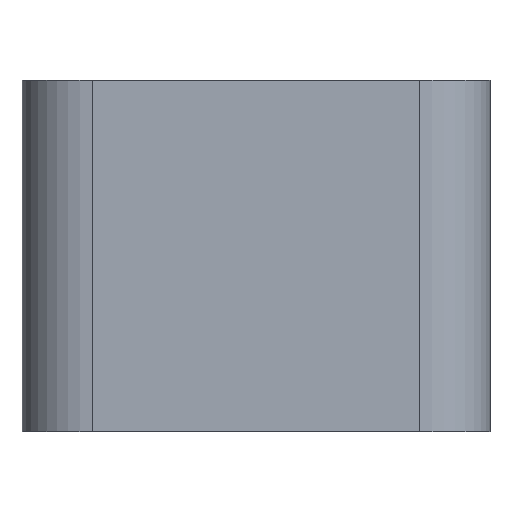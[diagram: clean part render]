
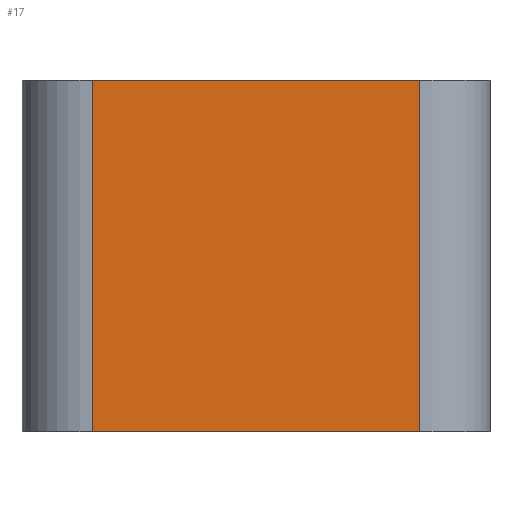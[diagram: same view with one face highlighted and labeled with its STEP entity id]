
A CAD part, left-side view. The second image highlights one B-rep face of the part: STEP entity #17.
In plain terms, the highlighted planar face has unit normal (-1, 0, 0).
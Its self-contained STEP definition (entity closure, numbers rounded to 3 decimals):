
#17 = ADVANCED_FACE('',(#18),#32,.T.);
#18 = FACE_BOUND('',#19,.T.);
#19 = EDGE_LOOP('',(#20,#55,#83,#111));
#20 = ORIENTED_EDGE('',*,*,#21,.T.);
#21 = EDGE_CURVE('',#22,#24,#26,.T.);
#22 = VERTEX_POINT('',#23);
#23 = CARTESIAN_POINT('',(-33.5,-27.1,-13.));
#24 = VERTEX_POINT('',#25);
#25 = CARTESIAN_POINT('',(-33.5,-27.1,-8.5));
#26 = SURFACE_CURVE('',#27,(#31,#43),.PCURVE_S1.);
#27 = LINE('',#28,#29);
#28 = CARTESIAN_POINT('',(-33.5,-27.1,-13.));
#29 = VECTOR('',#30,1.);
#30 = DIRECTION('',(0.,0.,1.));
#31 = PCURVE('',#32,#37);
#32 = PLANE('',#33);
#33 = AXIS2_PLACEMENT_3D('',#34,#35,#36);
#34 = CARTESIAN_POINT('',(-33.5,-27.1,-13.));
#35 = DIRECTION('',(-1.,0.,0.));
#36 = DIRECTION('',(0.,1.,0.));
#37 = DEFINITIONAL_REPRESENTATION('',(#38),#42);
#38 = LINE('',#39,#40);
#39 = CARTESIAN_POINT('',(0.,0.));
#40 = VECTOR('',#41,1.);
#41 = DIRECTION('',(0.,-1.));
#42 = ( GEOMETRIC_REPRESENTATION_CONTEXT(2) 
PARAMETRIC_REPRESENTATION_CONTEXT() REPRESENTATION_CONTEXT('2D SPACE',''
  ) );
#43 = PCURVE('',#44,#49);
#44 = CYLINDRICAL_SURFACE('',#45,0.9);
#45 = AXIS2_PLACEMENT_3D('',#46,#47,#48);
#46 = CARTESIAN_POINT('',(-32.6,-27.1,-13.));
#47 = DIRECTION('',(0.,0.,-1.));
#48 = DIRECTION('',(-1.,0.,0.));
#49 = DEFINITIONAL_REPRESENTATION('',(#50),#54);
#50 = LINE('',#51,#52);
#51 = CARTESIAN_POINT('',(6.283,0.));
#52 = VECTOR('',#53,1.);
#53 = DIRECTION('',(0.,-1.));
#54 = ( GEOMETRIC_REPRESENTATION_CONTEXT(2) 
PARAMETRIC_REPRESENTATION_CONTEXT() REPRESENTATION_CONTEXT('2D SPACE',''
  ) );
#55 = ORIENTED_EDGE('',*,*,#56,.T.);
#56 = EDGE_CURVE('',#24,#57,#59,.T.);
#57 = VERTEX_POINT('',#58);
#58 = CARTESIAN_POINT('',(-33.5,-22.9,-8.5));
#59 = SURFACE_CURVE('',#60,(#64,#71),.PCURVE_S1.);
#60 = LINE('',#61,#62);
#61 = CARTESIAN_POINT('',(-33.5,-25.,-8.5));
#62 = VECTOR('',#63,1.);
#63 = DIRECTION('',(0.,1.,0.));
#64 = PCURVE('',#32,#65);
#65 = DEFINITIONAL_REPRESENTATION('',(#66),#70);
#66 = LINE('',#67,#68);
#67 = CARTESIAN_POINT('',(2.1,-4.5));
#68 = VECTOR('',#69,1.);
#69 = DIRECTION('',(1.,0.));
#70 = ( GEOMETRIC_REPRESENTATION_CONTEXT(2) 
PARAMETRIC_REPRESENTATION_CONTEXT() REPRESENTATION_CONTEXT('2D SPACE',''
  ) );
#71 = PCURVE('',#72,#77);
#72 = PLANE('',#73);
#73 = AXIS2_PLACEMENT_3D('',#74,#75,#76);
#74 = CARTESIAN_POINT('',(-30.25,-25.,-8.5));
#75 = DIRECTION('',(0.,0.,1.));
#76 = DIRECTION('',(1.,0.,0.));
#77 = DEFINITIONAL_REPRESENTATION('',(#78),#82);
#78 = LINE('',#79,#80);
#79 = CARTESIAN_POINT('',(-3.25,0.));
#80 = VECTOR('',#81,1.);
#81 = DIRECTION('',(0.,1.));
#82 = ( GEOMETRIC_REPRESENTATION_CONTEXT(2) 
PARAMETRIC_REPRESENTATION_CONTEXT() REPRESENTATION_CONTEXT('2D SPACE',''
  ) );
#83 = ORIENTED_EDGE('',*,*,#84,.F.);
#84 = EDGE_CURVE('',#85,#57,#87,.T.);
#85 = VERTEX_POINT('',#86);
#86 = CARTESIAN_POINT('',(-33.5,-22.9,-13.));
#87 = SURFACE_CURVE('',#88,(#92,#99),.PCURVE_S1.);
#88 = LINE('',#89,#90);
#89 = CARTESIAN_POINT('',(-33.5,-22.9,-13.));
#90 = VECTOR('',#91,1.);
#91 = DIRECTION('',(0.,0.,1.));
#92 = PCURVE('',#32,#93);
#93 = DEFINITIONAL_REPRESENTATION('',(#94),#98);
#94 = LINE('',#95,#96);
#95 = CARTESIAN_POINT('',(4.2,0.));
#96 = VECTOR('',#97,1.);
#97 = DIRECTION('',(0.,-1.));
#98 = ( GEOMETRIC_REPRESENTATION_CONTEXT(2) 
PARAMETRIC_REPRESENTATION_CONTEXT() REPRESENTATION_CONTEXT('2D SPACE',''
  ) );
#99 = PCURVE('',#100,#105);
#100 = CYLINDRICAL_SURFACE('',#101,0.9);
#101 = AXIS2_PLACEMENT_3D('',#102,#103,#104);
#102 = CARTESIAN_POINT('',(-32.6,-22.9,-13.));
#103 = DIRECTION('',(0.,0.,-1.));
#104 = DIRECTION('',(-1.,0.,0.));
#105 = DEFINITIONAL_REPRESENTATION('',(#106),#110);
#106 = LINE('',#107,#108);
#107 = CARTESIAN_POINT('',(0.,0.));
#108 = VECTOR('',#109,1.);
#109 = DIRECTION('',(0.,-1.));
#110 = ( GEOMETRIC_REPRESENTATION_CONTEXT(2) 
PARAMETRIC_REPRESENTATION_CONTEXT() REPRESENTATION_CONTEXT('2D SPACE',''
  ) );
#111 = ORIENTED_EDGE('',*,*,#112,.F.);
#112 = EDGE_CURVE('',#22,#85,#113,.T.);
#113 = SURFACE_CURVE('',#114,(#118,#125),.PCURVE_S1.);
#114 = LINE('',#115,#116);
#115 = CARTESIAN_POINT('',(-33.5,-25.,-13.));
#116 = VECTOR('',#117,1.);
#117 = DIRECTION('',(0.,1.,0.));
#118 = PCURVE('',#32,#119);
#119 = DEFINITIONAL_REPRESENTATION('',(#120),#124);
#120 = LINE('',#121,#122);
#121 = CARTESIAN_POINT('',(2.1,0.));
#122 = VECTOR('',#123,1.);
#123 = DIRECTION('',(1.,0.));
#124 = ( GEOMETRIC_REPRESENTATION_CONTEXT(2) 
PARAMETRIC_REPRESENTATION_CONTEXT() REPRESENTATION_CONTEXT('2D SPACE',''
  ) );
#125 = PCURVE('',#126,#131);
#126 = PLANE('',#127);
#127 = AXIS2_PLACEMENT_3D('',#128,#129,#130);
#128 = CARTESIAN_POINT('',(-30.25,-25.,-13.));
#129 = DIRECTION('',(0.,0.,1.));
#130 = DIRECTION('',(1.,0.,0.));
#131 = DEFINITIONAL_REPRESENTATION('',(#132),#136);
#132 = LINE('',#133,#134);
#133 = CARTESIAN_POINT('',(-3.25,0.));
#134 = VECTOR('',#135,1.);
#135 = DIRECTION('',(0.,1.));
#136 = ( GEOMETRIC_REPRESENTATION_CONTEXT(2) 
PARAMETRIC_REPRESENTATION_CONTEXT() REPRESENTATION_CONTEXT('2D SPACE',''
  ) );
